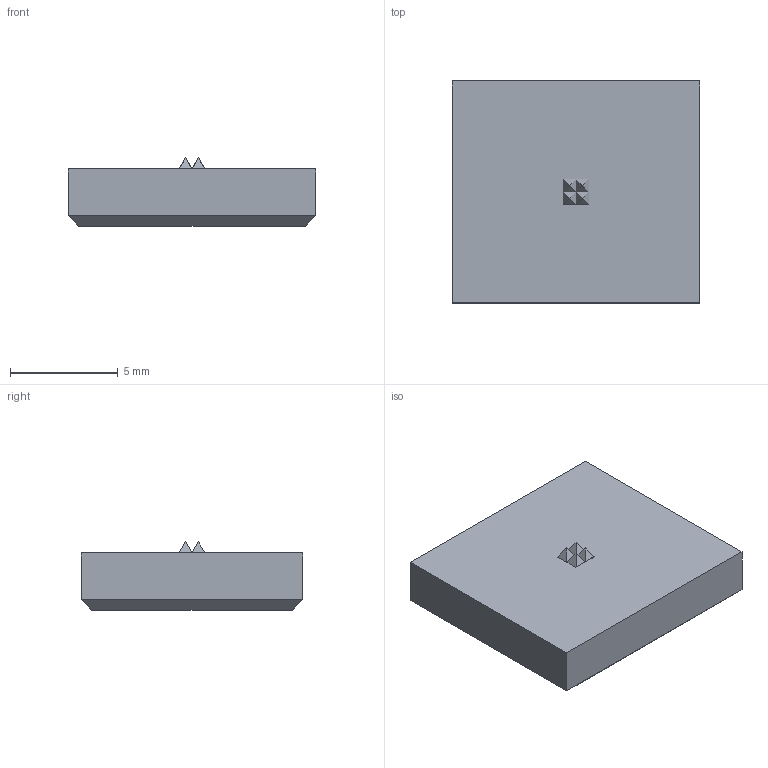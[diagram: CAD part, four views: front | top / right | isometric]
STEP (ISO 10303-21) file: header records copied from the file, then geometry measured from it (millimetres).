
FILE_DESCRIPTION((''),'2;1');
FILE_NAME('3532W004.stp','2001-04-24T10:51:13',(''),(''),'AutoCAD STEP 2000i','AutoCAD 2000i',', , ');
FILE_SCHEMA(('CONFIG_CONTROL_DESIGN'));
Length unit declared in the file: millimetre
Products named in the file (2): 3532,4POINT; PART1
Assembly tree (1 placements, depth 2):
  3532,4POINT
    PART1
Bounding box: 11.51 x 10.32 x 3.18 mm (x, y, z)
Volume: 311 mm3; surface area: 342 mm2
Topology: 1 solids, 1 shells, 28 faces, 54 edges, 29 vertices
Faces by surface type: plane 28
Entity records: 779 total; most frequent: DIRECTION 114, CARTESIAN_POINT 113, ORIENTED_EDGE 108, VECTOR 54, LINE 54, EDGE_CURVE 54, AXIS2_PLACEMENT_3D 30, VERTEX_POINT 29
